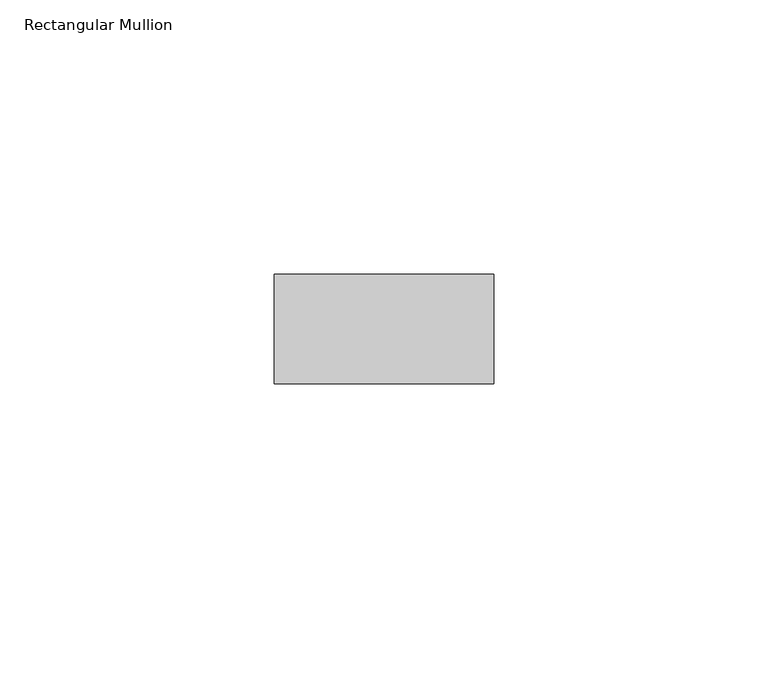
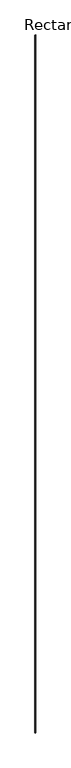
"""IFC4 building model written with IfcOpenShell, lengths in millimetres: member geometry, Rectangular Mullion : RIPA 4x2 cm."""

from ifc_helpers import new_model, si_unit, frame, origin, place, context, project, spatial, polyline, outline, extrude, source, transform, mapped, element, save


def rectangular_mullion_0475a46f(model_context):
    return source(origin(), model_context, "Body", "SweptSolid", [
        extrude(outline(polyline([(20.0, 0.0), (20.0, -20.0), (-20.0, -20.0), (-20.0, 0.0), (20.0, 0.0)])), frame((0.0, 0.0, -39953.4549319), z_axis=(0.0, 0.0, 1.0), x_axis=(1.0, 0.0, 0.0)), (0.0, 0.0, 1.0), 39953.4549319),
    ])


if __name__ == "__main__":
    model = new_model("IFC4")
    model_context = context("Model", 3, world=origin())
    ifc_project = project(units=[si_unit("LENGTHUNIT", "METRE", prefix="MILLI")], contexts=[model_context])
    site = spatial("IfcSite", under=ifc_project)
    building = spatial("IfcBuilding", under=site)
    placement = place(None, origin())
    rectangular_mullion_shape = rectangular_mullion_0475a46f(model_context)
    element("IfcMember", 1, ObjectType="Rectangular Mullion : RIPA 4x2 cm", at=placement, inside=building, context=model_context, shape_type="MappedRepresentation", body=[
        mapped(rectangular_mullion_shape, transform((0.0, 0.0, 0.0), x_axis=(1.0, 0.0, 0.0), y_axis=(0.0, 1.0, 0.0), z_axis=(0.0, 0.0, 1.0))),
    ])
    save(model, "model.ifc")
